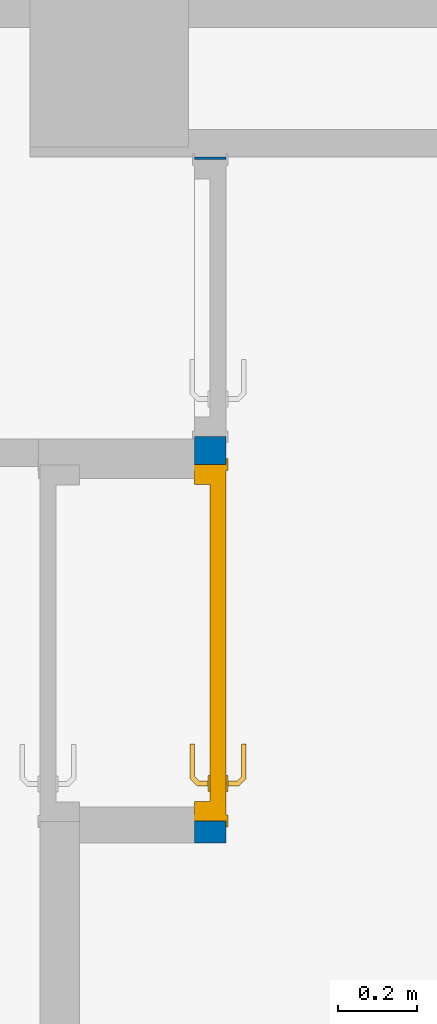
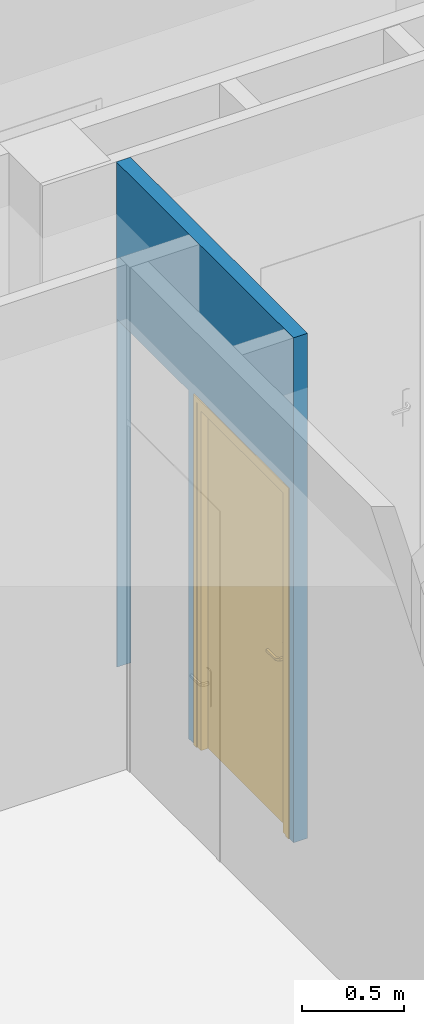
# One storey, part 58 of 97: 1 door, 1 wall, 2 openings.
"""IFC4 building model written with IfcOpenShell, lengths in metres."""

from ifc_helpers import new_model, entity, si_unit, converted_unit, derived_unit, direction, frame, origin, place, context, subcontext, project, spatial, indexed_curve, outline, extrude, polygons, source, transform, mapped, material, material_list, layer, layer_set, constituent, constituent_set, type_object, type_shapes, element, fill, save


model = new_model("IFC4")

# Units and contexts
model_context = context("Model", 3, precision=1e-05, world=origin(), true_north=direction((6.12303176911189e-17, 1.0)))
body_context = subcontext(model_context, "Body", "Model", "MODEL_VIEW")
ifc_project = project(units=[si_unit("LENGTHUNIT", "METRE"), si_unit("AREAUNIT", "SQUARE_METRE"), si_unit("VOLUMEUNIT", "CUBIC_METRE"), converted_unit("PLANEANGLEUNIT", "DEGREE", entity("IfcRatioMeasure", 0.0174532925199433), si_unit("PLANEANGLEUNIT", "RADIAN"), dimensions=[0, 0, 0, 0, 0, 0, 0]), si_unit("MASSUNIT", "GRAM", prefix="KILO"), derived_unit("MASSDENSITYUNIT", [(si_unit("MASSUNIT", "GRAM", prefix="KILO"), 1), (si_unit("LENGTHUNIT", "METRE"), -3)]), derived_unit("MOMENTOFINERTIAUNIT", [(si_unit("LENGTHUNIT", "METRE"), 4)]), si_unit("TIMEUNIT", "SECOND"), si_unit("FREQUENCYUNIT", "HERTZ"), si_unit("THERMODYNAMICTEMPERATUREUNIT", "DEGREE_CELSIUS"), derived_unit("THERMALTRANSMITTANCEUNIT", [(si_unit("MASSUNIT", "GRAM", prefix="KILO"), 1), (si_unit("THERMODYNAMICTEMPERATUREUNIT", "KELVIN"), -1), (si_unit("TIMEUNIT", "SECOND"), -3)]), derived_unit("VOLUMETRICFLOWRATEUNIT", [(si_unit("LENGTHUNIT", "METRE"), 3), (si_unit("TIMEUNIT", "SECOND"), -1)]), si_unit("ELECTRICCURRENTUNIT", "AMPERE"), si_unit("ELECTRICVOLTAGEUNIT", "VOLT"), si_unit("POWERUNIT", "WATT"), si_unit("FORCEUNIT", "NEWTON", prefix="KILO"), si_unit("ILLUMINANCEUNIT", "LUX"), si_unit("LUMINOUSFLUXUNIT", "LUMEN"), si_unit("LUMINOUSINTENSITYUNIT", "CANDELA"), derived_unit("USERDEFINED", [(si_unit("MASSUNIT", "GRAM", prefix="KILO"), -1), (si_unit("LENGTHUNIT", "METRE"), -2), (si_unit("TIMEUNIT", "SECOND"), 3), (si_unit("LUMINOUSFLUXUNIT", "LUMEN"), 1)]), derived_unit("LINEARVELOCITYUNIT", [(si_unit("LENGTHUNIT", "METRE"), 1), (si_unit("TIMEUNIT", "SECOND"), -1)]), si_unit("PRESSUREUNIT", "PASCAL"), derived_unit("USERDEFINED", [(si_unit("LENGTHUNIT", "METRE"), -2), (si_unit("MASSUNIT", "GRAM", prefix="KILO"), 1), (si_unit("TIMEUNIT", "SECOND"), -2)]), derived_unit("LINEARFORCEUNIT", [(si_unit("MASSUNIT", "GRAM", prefix="KILO"), 1), (si_unit("LENGTHUNIT", "METRE"), 1), (si_unit("TIMEUNIT", "SECOND"), -2), (si_unit("LENGTHUNIT", "METRE"), -1)]), derived_unit("PLANARFORCEUNIT", [(si_unit("MASSUNIT", "GRAM", prefix="KILO"), 1), (si_unit("LENGTHUNIT", "METRE"), 1), (si_unit("TIMEUNIT", "SECOND"), -2), (si_unit("LENGTHUNIT", "METRE"), -2)])], contexts=[model_context])

# Site, building, storey
site_placement = place(None, origin())
site = spatial("IfcSite", under=ifc_project, at=site_placement, Name="Default", CompositionType="ELEMENT")
building_placement = place(site_placement, origin())
building = spatial("IfcBuilding", under=site, at=building_placement, Name="HOTEL CONSULAIRE BOULOGNE SUR MER", CompositionType="ELEMENT")
storey_placement = place(building_placement, frame((0.0, 0.0, 3.62152697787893)))
storey = spatial("IfcBuildingStorey", under=building, at=storey_placement, Name="Niveau 1", CompositionType="ELEMENT", Elevation=3.62152697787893)

# Wall, openings, door
ifc_material_1 = material(Name="Mur par défaut", Category="Divers")
ifc_layer = layer(ifc_material_1, 0.08, Name="Mur par défaut", Category="Divers")
ifc_layer_set = layer_set([ifc_layer], Name="Mur de base:Générique - Int. 80")
wall_type = type_object("IfcWallType", Name="Mur de base:Générique - Int. 80", PredefinedType="NOTDEFINED", material=ifc_layer_set)
wall_placement = place(storey_placement, frame((-5.07777317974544, -25.9733034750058, 0.0), z_axis=(0.0, 0.0, 1.0), x_axis=(0.0, 1.0, 0.0)))
wall = element("IfcWall", 1, at=wall_placement, inside=storey, type_object=wall_type, material=ifc_layer_set, Name="Mur de base:Générique - Int. 80", ObjectType="Mur de base:Générique - Int. 80", PredefinedType="NOTDEFINED", context=body_context, shape_type="Tessellation", body=[
    polygons([(1.73126338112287, -0.0399999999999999, 0.0), (1.72545969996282, -0.0399999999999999, 0.0), (1.72545969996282, 0.0399999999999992, 0.0), (1.73126338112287, 0.0399999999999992, 0.0), (1.02545969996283, -0.0400000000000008, 0.0), (0.954828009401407, -0.0400000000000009, 0.0), (0.954828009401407, 0.0399999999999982, 0.0), (1.01965601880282, 0.0399999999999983, 0.0), (1.02545969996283, 0.0399999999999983, 0.0), (1.73126338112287, -0.040000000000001, 3.01021454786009), (0.0, -0.0400000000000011, 3.01021454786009), (0.0, -0.0400000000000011, 0.0), (0.0548280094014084, -0.040000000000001, 0.0), (0.0548280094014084, -0.040000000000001, 2.075), (0.954828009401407, -0.0400000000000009, 2.075), (1.02545969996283, -0.0400000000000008, 2.07500000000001), (1.72545969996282, -0.040000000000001, 2.07500000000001), (0.0, 0.0399999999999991, 3.01021454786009), (0.0900000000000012, 0.0399999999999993, 3.01021454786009), (0.919656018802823, 0.0399999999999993, 3.01021454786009), (1.01965601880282, 0.0399999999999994, 3.01021454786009), (1.73126338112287, 0.0399999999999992, 3.01021454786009), (1.72545969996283, 0.0399999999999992, 2.07500000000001), (1.02545969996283, 0.0399999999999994, 2.07500000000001), (0.954828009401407, 0.0399999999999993, 2.075), (0.0548280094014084, 0.0399999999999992, 2.075), (0.0548280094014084, 0.0399999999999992, 0.0), (0.0, 0.0399999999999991, 0.0)], [[[4, 1, 2, 3]], [[8, 9, 5, 6, 7]], [[26, 25, 15, 14]], [[24, 23, 17, 16]], [[27, 13, 12, 28]], [[12, 13, 14, 15, 6, 5, 16, 17, 2, 1, 10, 11]], [[4, 3, 23, 24, 9, 8, 7, 25, 26, 27, 28, 18, 19, 20, 21, 22]], [[11, 10, 22, 21, 20, 19, 18]], [[10, 1, 4, 22]], [[27, 26, 14, 13]], [[9, 24, 16, 5]], [[18, 28, 12, 11]], [[25, 7, 6, 15]], [[23, 3, 2, 17]]], closed=True),
])
opening_1_placement = place(wall_placement, frame((0.954828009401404, 0.0399999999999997, 0.0)))
opening_1 = element("IfcOpeningElement", 2, at=opening_1_placement, cuts=wall, Name="Int. Simple:PP (0.83m x 2.04m):1", ObjectType="Opening", PredefinedType="OPENING", context=body_context, shape_type="SweptSolid", body=[
    extrude(outline(indexed_curve([(0.0, 1.08286712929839e-15), (2.075, 1.08286712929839e-15), (2.075, 0.9), (0.0, 0.9), (0.0, 1.08286712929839e-15)], self_intersect=False)), frame((0.0, 0.0, 0.0), z_axis=(0.0, -1.0, 0.0), x_axis=(0.0, 0.0, 1.0)), (0.0, 0.0, 1.0), 0.08),
])
opening_2_placement = place(wall_placement, frame((1.72545969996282, 0.0400000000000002, 0.0)))
element("IfcOpeningElement", 3, at=opening_2_placement, cuts=wall, Name="Int. Simple:PP (0.63m x 2.04m):1", ObjectType="Opening", PredefinedType="OPENING", context=body_context, shape_type="SweptSolid", body=[
    extrude(outline(indexed_curve([(0.0, 2.70716782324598e-15), (2.07500000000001, 2.70716782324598e-15), (2.07500000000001, 0.699999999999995), (0.0, 0.699999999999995), (0.0, 2.70716782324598e-15)], self_intersect=False)), frame((0.0, 0.0, 0.0), z_axis=(0.0, -1.0, 0.0), x_axis=(0.0, 0.0, 1.0)), (0.0, 0.0, 1.0), 0.08),
])
ifc_material_2 = material(Name="Finition Peinture - Blanc satiné", Category="Peinture")
ifc_constituent_1 = constituent(ifc_material_2, Name="Finition Peinture - Blanc satiné", Category="Matériaux")
ifc_material_3 = material(Name="Bois - Panneau de porte", Category="Bois")
ifc_constituent_2 = constituent(ifc_material_3, Name="Bois - Panneau de porte", Category="Matériaux")
ifc_material_4 = material(Name="Bois - Cadre de porte", Category="Bois")
ifc_constituent_3 = constituent(ifc_material_4, Name="Bois - Cadre de porte", Category="Matériaux")
ifc_constituent_set = constituent_set(constituents=[ifc_constituent_1, ifc_constituent_2, ifc_constituent_3], Name="MaterialConstituentSet")
ifc_material_list = material_list([ifc_material_4, ifc_material_2, ifc_material_3, ifc_material_4])
door_type = type_object("IfcDoorType", Name="Int. Simple:PP (0.83m x 2.04m)", OperationType="NOTDEFINED", PredefinedType="DOOR", material=ifc_material_list)
shared_shape = source(origin(), body_context, "Body", "Tessellation", [
    polygons([(0.0750000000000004, -0.00500000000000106, 0.870000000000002), (0.0846472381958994, -0.00500000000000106, 0.866003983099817), (0.0950000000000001, -0.00500000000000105, 0.86464101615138), (0.105352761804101, -0.00500000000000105, 0.866003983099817), (0.115, -0.00500000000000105, 0.870000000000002), (0.114999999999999, -0.00500000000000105, 1.08), (0.1053527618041, -0.00500000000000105, 1.08399601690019), (0.094999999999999, -0.00500000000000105, 1.08535898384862), (0.0846472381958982, -0.00500000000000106, 1.08399601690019), (0.0749999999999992, -0.00500000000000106, 1.08), (0.0749999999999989, -1.06594733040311e-15, 0.870000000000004), (0.0749999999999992, -1.06594733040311e-15, 1.08), (0.0846472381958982, -1.06594733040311e-15, 1.08399601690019), (0.094999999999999, -1.05748743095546e-15, 1.08535898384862), (0.1053527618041, -1.05748743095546e-15, 1.08399601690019), (0.114999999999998, -1.04902753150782e-15, 1.08), (0.115, -1.04902753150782e-15, 0.870000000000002), (0.105352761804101, -1.05748743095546e-15, 0.866003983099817), (0.0950000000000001, -1.05748743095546e-15, 0.86464101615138), (0.0846472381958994, -1.06594733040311e-15, 0.866003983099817)], [[[4, 5, 6, 7, 8, 9, 10, 1, 2, 3]], [[15, 16, 17, 18, 19, 20, 11, 12, 13, 14]], [[11, 20, 2, 1]], [[2, 20, 19, 3]], [[19, 18, 4, 3]], [[18, 17, 5, 4]], [[6, 5, 17, 16]], [[16, 15, 7, 6]], [[7, 15, 14, 8]], [[14, 13, 9, 8]], [[13, 12, 10, 9]], [[1, 10, 12, 11]]], closed=True),
    polygons([(0.114999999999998, 0.0399999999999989, 1.08), (0.105352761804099, 0.0399999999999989, 1.08399601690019), (0.0949999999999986, 0.0399999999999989, 1.08535898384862), (0.084647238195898, 0.0399999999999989, 1.08399601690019), (0.0749999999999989, 0.0399999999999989, 1.08), (0.0750000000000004, 0.0399999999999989, 0.870000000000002), (0.0846472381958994, 0.0399999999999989, 0.866003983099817), (0.0950000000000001, 0.0399999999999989, 0.86464101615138), (0.105352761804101, 0.0399999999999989, 0.866003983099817), (0.115, 0.0399999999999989, 0.870000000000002), (0.114999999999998, 0.0449999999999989, 1.08), (0.115, 0.0449999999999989, 0.870000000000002), (0.105352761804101, 0.0449999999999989, 0.866003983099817), (0.0950000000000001, 0.0449999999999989, 0.86464101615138), (0.0846472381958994, 0.0449999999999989, 0.866003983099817), (0.0749999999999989, 0.0449999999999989, 0.870000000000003), (0.0749999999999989, 0.0449999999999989, 1.08), (0.084647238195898, 0.0449999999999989, 1.08399601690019), (0.0949999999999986, 0.0449999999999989, 1.08535898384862), (0.105352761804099, 0.0449999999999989, 1.08399601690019)], [[[9, 10, 1, 2, 3, 4, 5, 6, 7, 8]], [[20, 11, 12, 13, 14, 15, 16, 17, 18, 19]], [[11, 20, 2, 1]], [[2, 20, 19, 3]], [[19, 18, 4, 3]], [[18, 17, 5, 4]], [[6, 5, 17, 16]], [[16, 15, 7, 6]], [[7, 15, 14, 8]], [[14, 13, 9, 8]], [[13, 12, 10, 9]], [[1, 10, 12, 11]]], closed=True),
    polygons([(0.0889999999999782, -0.00500000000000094, 1.007), (0.0929747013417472, -0.00500000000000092, 1.00778044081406), (0.0970252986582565, -0.0050000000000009, 1.00778044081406), (0.101000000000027, -0.00500000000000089, 1.00699999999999), (0.101000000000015, -0.00500000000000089, 0.993000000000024), (0.0970252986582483, -0.0050000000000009, 0.992219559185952), (0.0929747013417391, -0.00500000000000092, 0.99221955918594), (0.0889999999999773, -0.00500000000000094, 0.992999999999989), (0.0889999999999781, -0.0326509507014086, 1.007), (0.092974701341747, -0.0310045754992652, 1.00778044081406), (0.0970252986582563, -0.0293267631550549, 1.00778044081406), (0.101000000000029, -0.0276803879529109, 1.007), (0.101000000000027, -0.0276803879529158, 0.993000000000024), (0.0970252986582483, -0.0293267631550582, 0.992219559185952), (0.0929747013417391, -0.0310045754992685, 0.99221955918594), (0.0889999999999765, -0.0326509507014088, 0.992999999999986), (0.107377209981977, -0.0510281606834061, 1.007), (0.10902358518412, -0.0470534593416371, 1.00778044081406), (0.110701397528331, -0.0430028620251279, 1.00778044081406), (0.112347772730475, -0.0390281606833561, 1.007), (0.112347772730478, -0.0390281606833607, 0.993000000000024), (0.110701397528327, -0.0430028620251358, 0.992219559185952), (0.109023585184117, -0.047053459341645, 0.99221955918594), (0.107377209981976, -0.0510281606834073, 0.992999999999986), (0.195018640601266, -0.0510281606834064, 1.00699999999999), (0.195018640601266, -0.0510281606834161, 0.992999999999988), (0.195018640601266, -0.0470534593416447, 0.99221955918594), (0.195018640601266, -0.0430028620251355, 0.992219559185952), (0.195018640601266, -0.039028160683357, 0.993000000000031), (0.195018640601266, -0.0390281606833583, 1.007), (0.195018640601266, -0.0430028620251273, 1.00778044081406), (0.195018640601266, -0.0470534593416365, 1.00778044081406), (0.147307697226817, -0.0510281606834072, 1.007), (0.152860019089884, -0.045028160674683, 1.0078786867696), (0.15368320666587, -0.039028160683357, 1.007), (0.147307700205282, -0.0510281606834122, 0.992999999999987), (0.152860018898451, -0.0450281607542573, 0.992121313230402), (0.153683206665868, -0.039028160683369, 0.993000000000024)], [[[2, 3, 4, 5, 6, 7, 8, 1]], [[21, 20, 35, 30, 29, 38]], [[9, 10, 2, 1]], [[10, 18, 19, 11, 3, 2]], [[11, 12, 4, 3]], [[5, 4, 12, 13]], [[26, 27, 28, 29, 30, 31, 32, 25]], [[13, 14, 6, 5]], [[14, 22, 23, 15, 7, 6]], [[15, 16, 8, 7]], [[1, 8, 16, 9]], [[17, 18, 10, 9]], [[19, 20, 12, 11]], [[13, 12, 20, 21]], [[21, 22, 14, 13]], [[23, 24, 16, 15]], [[9, 16, 24, 17]], [[33, 32, 34]], [[25, 32, 33]], [[18, 17, 33]], [[34, 35, 19]], [[20, 19, 35]], [[35, 31, 30]], [[32, 31, 34]], [[31, 35, 34]], [[18, 33, 34]], [[18, 34, 19]], [[38, 28, 37]], [[36, 37, 27]], [[21, 38, 22]], [[38, 29, 28]], [[26, 36, 27]], [[24, 23, 36]], [[36, 23, 37]], [[23, 22, 37]], [[22, 38, 37]], [[27, 37, 28]], [[17, 24, 36, 26, 25, 33]]], closed=True),
    polygons([(0.10100000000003, 0.0449999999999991, 0.993000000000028), (0.101000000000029, 0.0449999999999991, 1.007), (0.0970252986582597, 0.0449999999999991, 1.00778044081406), (0.0929747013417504, 0.0449999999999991, 1.00778044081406), (0.0889999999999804, 0.044999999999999, 1.007), (0.0889999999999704, 0.044999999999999, 0.992999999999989), (0.0929747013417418, 0.0449999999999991, 0.99221955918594), (0.0970252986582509, 0.0449999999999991, 0.992219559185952), (0.10100000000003, 0.067485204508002, 0.993000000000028), (0.10100000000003, 0.0674852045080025, 1.007), (0.0970252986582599, 0.0691315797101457, 1.00778044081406), (0.0929747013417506, 0.070809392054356, 1.00778044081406), (0.0889999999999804, 0.0724557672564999, 1.007), (0.0889999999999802, 0.072455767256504, 0.992999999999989), (0.0929747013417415, 0.0708093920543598, 0.99221955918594), (0.0970252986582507, 0.0691315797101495, 0.992219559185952), (0.112485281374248, 0.0789704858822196, 0.993000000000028), (0.112485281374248, 0.0789704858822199, 1.007), (0.110838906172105, 0.0829451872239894, 1.00778044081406), (0.109161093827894, 0.0869957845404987, 1.00778044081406), (0.107514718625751, 0.0909704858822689, 1.007), (0.107514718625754, 0.090970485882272, 0.992999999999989), (0.109161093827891, 0.0869957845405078, 0.99221955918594), (0.110838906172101, 0.0829451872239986, 0.992219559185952), (0.195045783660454, 0.0789704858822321, 0.993000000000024), (0.195045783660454, 0.0829451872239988, 0.992219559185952), (0.195045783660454, 0.086995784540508, 0.99221955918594), (0.195045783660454, 0.0909704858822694, 0.992999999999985), (0.195045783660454, 0.0909704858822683, 1.007), (0.195045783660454, 0.0869957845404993, 1.00778044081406), (0.195045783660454, 0.0829451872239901, 1.00778044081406), (0.195045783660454, 0.0789704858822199, 1.007), (0.147445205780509, 0.0909704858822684, 1.007), (0.152942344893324, 0.0849704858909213, 1.0078786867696), (0.153765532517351, 0.0789704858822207, 1.007), (0.147445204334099, 0.0909704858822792, 0.992999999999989), (0.152942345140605, 0.0849704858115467, 0.992121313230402), (0.153765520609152, 0.0789704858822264, 0.993000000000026)], [[[4, 5, 6, 7, 8, 1, 2, 3]], [[18, 17, 38, 25, 32, 35]], [[2, 1, 9, 10]], [[25, 26, 27, 28, 29, 30, 31, 32]], [[10, 11, 3, 2]], [[11, 19, 20, 12, 4, 3]], [[12, 13, 5, 4]], [[6, 5, 13, 14]], [[14, 15, 7, 6]], [[15, 23, 24, 16, 8, 7]], [[16, 9, 1, 8]], [[10, 9, 17, 18]], [[18, 19, 11, 10]], [[20, 21, 13, 12]], [[14, 13, 21, 22]], [[22, 23, 15, 14]], [[24, 17, 9, 16]], [[35, 31, 34]], [[33, 34, 30]], [[18, 35, 19]], [[35, 32, 31]], [[29, 33, 30]], [[21, 20, 33]], [[33, 20, 34]], [[20, 19, 34]], [[19, 35, 34]], [[30, 34, 31]], [[21, 33, 29, 28, 36, 22]], [[36, 27, 37]], [[28, 27, 36]], [[23, 22, 36]], [[37, 38, 24]], [[17, 24, 38]], [[38, 26, 25]], [[27, 26, 37]], [[26, 38, 37]], [[23, 36, 37]], [[23, 37, 24]]], closed=True),
    polygons([(0.034999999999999, 0.04, 2.04), (0.865, 0.04, 2.04), (0.864999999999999, 0.04, 0.0), (0.034999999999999, 0.04, 0.0), (0.034999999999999, 3.38395977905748e-17, 2.04), (0.034999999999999, 3.38395977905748e-17, 0.0), (0.864999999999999, 3.38395977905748e-17, 0.0), (0.865, 3.38395977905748e-17, 2.04)], [[[4, 1, 2, 3]], [[7, 8, 5, 6]], [[2, 1, 5, 8]], [[3, 2, 8, 7]], [[4, 3, 7, 6]], [[1, 4, 6, 5]]], closed=True),
    polygons([(-1.54308565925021e-14, -8.45989944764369e-18, 0.0), (-1.54308565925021e-14, 0.080000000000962, 0.0), (0.0499999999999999, 0.080000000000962, 0.0), (0.0499999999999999, 0.0400000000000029, 0.0), (0.0349999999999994, 0.0400000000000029, 0.0), (0.0349999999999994, -8.45989944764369e-18, 0.0), (-1.53631773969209e-14, -8.45989944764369e-18, 2.07500000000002), (-1.53631773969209e-14, 0.080000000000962, 2.07500000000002), (0.900000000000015, 0.080000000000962, 2.07500000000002), (0.900000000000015, 0.080000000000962, 9.23443718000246e-25), (0.85, 0.080000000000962, 6.02669015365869e-24), (0.85, 0.080000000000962, 2.025), (0.05, 0.080000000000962, 2.025), (0.05, 0.0400000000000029, 2.025), (0.85, 0.0400000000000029, 2.025), (0.85, 0.0400000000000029, 1.99209609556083e-25), (0.865, 0.0400000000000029, 1.51399294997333e-24), (0.865000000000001, 0.0400000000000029, 2.04), (0.0349999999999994, 0.0400000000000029, 2.04), (0.0349999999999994, -8.45989944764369e-18, 2.04), (0.865, -8.45989944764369e-18, 2.04), (0.865, -8.45989944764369e-18, 3.40121094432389e-24), (0.900000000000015, -8.45989944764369e-18, 1.81925185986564e-24), (0.900000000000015, -8.45989944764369e-18, 2.07500000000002)], [[[5, 6, 1, 2, 3, 4]], [[11, 10, 23, 22, 17, 16]], [[14, 13, 12, 15]], [[20, 19, 18, 21]], [[2, 1, 7, 8]], [[15, 12, 11, 16]], [[21, 18, 17, 22]], [[3, 2, 8, 9, 10, 11, 12, 13]], [[4, 3, 13, 14]], [[6, 5, 19, 20]], [[9, 24, 23, 10]], [[16, 17, 18, 19, 5, 4, 14, 15]], [[22, 23, 24, 7, 1, 6, 20, 21]], [[8, 7, 24, 9]]], closed=True),
    polygons([(0.0149999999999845, 0.080000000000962, 1.35358391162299e-16), (-0.0150000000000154, 0.080000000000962, 1.35358391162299e-16), (-0.0150000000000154, 0.085000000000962, 1.35358391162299e-16), (0.0149999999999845, 0.085000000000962, 1.35358391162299e-16), (0.0149999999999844, 0.080000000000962, 2.06000000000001), (0.884999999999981, 0.080000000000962, 2.06000000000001), (0.88499999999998, 0.080000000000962, 5.09144897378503e-24), (0.91499999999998, 0.080000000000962, -5.44393448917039e-24), (0.91499999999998, 0.080000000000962, 2.09000000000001), (-0.0150000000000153, 0.080000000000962, 2.09000000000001), (-0.0150000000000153, 0.085000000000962, 2.09000000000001), (0.91499999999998, 0.085000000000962, 2.09000000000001), (0.91499999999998, 0.085000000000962, 5.03766794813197e-24), (0.88499999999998, 0.085000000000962, -1.89153776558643e-24), (0.88499999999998, 0.085000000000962, 2.06000000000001), (0.0149999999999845, 0.085000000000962, 2.06000000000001)], [[[1, 2, 3, 4]], [[14, 13, 8, 7]], [[5, 16, 15, 6]], [[7, 8, 9, 10, 2, 1, 5, 6]], [[3, 2, 10, 11]], [[6, 15, 14, 7]], [[4, 3, 11, 12, 13, 14, 15, 16]], [[1, 4, 16, 5]], [[12, 9, 8, 13]], [[11, 10, 9, 12]]], closed=True),
    polygons([(0.0149999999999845, -0.00499999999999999, 1.35358391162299e-16), (-0.0150000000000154, -0.00499999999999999, 1.35358391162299e-16), (-0.0150000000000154, -8.45989944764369e-18, 1.35358391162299e-16), (0.0149999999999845, -8.45989944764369e-18, 1.35358391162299e-16), (0.88499999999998, -0.00499999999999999, -1.35358391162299e-16), (0.88499999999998, -8.45989944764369e-18, -1.35358391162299e-16), (0.91499999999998, -8.45989944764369e-18, -1.35358391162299e-16), (0.91499999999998, -0.00499999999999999, -1.35358391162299e-16), (0.0149999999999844, -0.00499999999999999, 2.06000000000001), (0.884999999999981, -0.00499999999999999, 2.06000000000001), (0.91499999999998, -0.00499999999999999, 2.09000000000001), (-0.0150000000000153, -0.00499999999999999, 2.09000000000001), (-0.0150000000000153, -8.45989944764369e-18, 2.09000000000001), (0.91499999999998, -8.45989944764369e-18, 2.09000000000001), (0.88499999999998, -8.45989944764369e-18, 2.06000000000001), (0.0149999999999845, -8.45989944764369e-18, 2.06000000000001)], [[[1, 2, 3, 4]], [[6, 7, 8, 5]], [[9, 16, 15, 10]], [[5, 8, 11, 12, 2, 1, 9, 10]], [[3, 2, 12, 13]], [[10, 15, 6, 5]], [[4, 3, 13, 14, 7, 6, 15, 16]], [[1, 4, 16, 9]], [[14, 11, 8, 7]], [[13, 12, 11, 14]]], closed=True),
])
type_shapes(door_type, [shared_shape])
door_placement = place(opening_1_placement, frame((-0.899999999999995, -0.0799999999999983, 0.0)))
door = element("IfcDoor", 4, at=door_placement, inside=storey, type_object=door_type, material=ifc_constituent_set, Name="Int. Simple:PP (0.83m x 2.04m)", ObjectType="Int. Simple:PP (0.83m x 2.04m)", OperationType="NOTDEFINED", OverallHeight=2.075, OverallWidth=0.899999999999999, PredefinedType="DOOR", context=body_context, shape_type="MappedRepresentation", body=[
    mapped(shared_shape, transform((0.0, 0.0, 0.0), scale=1.0)),
])
fill(opening_1, door)

save(model, "model.ifc")
